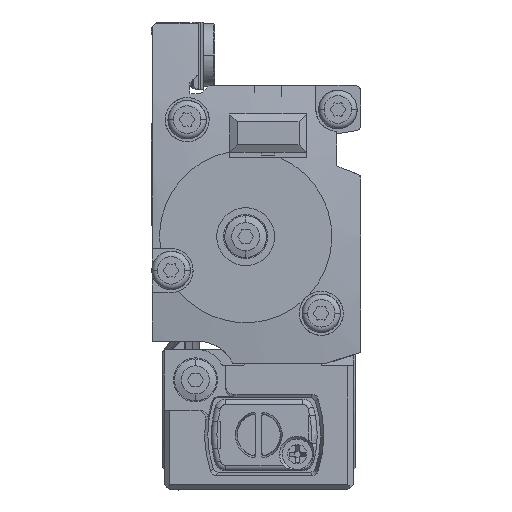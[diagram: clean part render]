
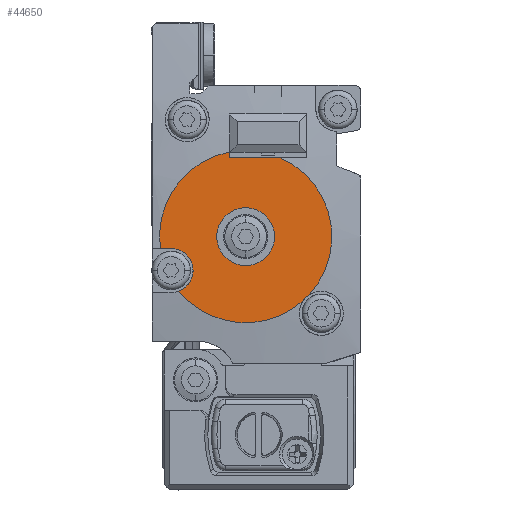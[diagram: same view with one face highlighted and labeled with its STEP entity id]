
A CAD part, left-side view. The second image highlights one B-rep face of the part: STEP entity #44650.
In plain terms, the highlighted planar face has unit normal (-1, 0, 0) as drawn and (0, 0, -1) by its records, which use the part's own axes.
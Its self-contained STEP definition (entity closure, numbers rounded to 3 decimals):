
#5440=CARTESIAN_POINT('',(-103.732,235.923,
-10.5));
#5450=VERTEX_POINT('',#5440);
#5480=CARTESIAN_POINT('',(-105.972,239.237,
-10.5));
#5490=DIRECTION('',(0.,0.,-1.));
#5500=DIRECTION('',(-1.,0.,0.));
#5510=AXIS2_PLACEMENT_3D('',#5480,#5490,#5500);
#5520=CIRCLE('',#5510,4.);
#5530=CARTESIAN_POINT('',(-102.627,237.044,
-10.5));
#5540=VERTEX_POINT('',#5530);
#5550=EDGE_CURVE('',#5540,#5450,#5520,.T.);
#14040=CARTESIAN_POINT('',(-94.188,211.959,
-10.5));
#14050=VERTEX_POINT('',#14040);
#14080=CARTESIAN_POINT('',(-98.188,211.959,
-10.5));
#14090=DIRECTION('',(0.,0.,-1.));
#14100=DIRECTION('',(-1.,0.,0.));
#14110=AXIS2_PLACEMENT_3D('',#14080,#14090,#14100);
#14120=CIRCLE('',#14110,4.);
#14130=CARTESIAN_POINT('',(-101.931,213.372,
-10.5));
#14140=VERTEX_POINT('',#14130);
#14150=EDGE_CURVE('',#14140,#14050,#14120,.T.);
#44040=CARTESIAN_POINT('',(-84.704,225.495,
-10.5));
#44050=DIRECTION('',(0.,0.,-1.));
#44060=DIRECTION('',(1.,0.,0.));
#44070=AXIS2_PLACEMENT_3D('',#44040,#44050,#44060);
#44080=PLANE('',#44070);
#44090=CARTESIAN_POINT('',(-92.05,225.495,
-10.5));
#44100=DIRECTION('',(0.,0.,-1.));
#44110=DIRECTION('',(-1.,0.,0.));
#44120=AXIS2_PLACEMENT_3D('',#44090,#44100,#44110);
#44130=CIRCLE('',#44120,5.25);
#44140=CARTESIAN_POINT('',(-97.3,225.495,
-10.5));
#44150=VERTEX_POINT('',#44140);
#44160=CARTESIAN_POINT('',(-86.8,225.495,
-10.5));
#44170=VERTEX_POINT('',#44160);
#44180=EDGE_CURVE('',#44150,#44170,#44130,.T.);
#44190=ORIENTED_EDGE('',*,*,#44180,.F.);
#44200=EDGE_CURVE('',#44170,#44150,#44130,.T.);
#44210=ORIENTED_EDGE('',*,*,#44200,.F.);
#44220=EDGE_LOOP('',(#44210,#44190));
#44230=FACE_BOUND('',#44220,.T.);
#44240=ORIENTED_EDGE('',*,*,#5550,.F.);
#44250=CARTESIAN_POINT('',(-92.051,225.509,
-10.5));
#44260=DIRECTION('',(0.,0.,-1.));
#44270=DIRECTION('',(1.,0.,0.));
#44280=AXIS2_PLACEMENT_3D('',#44250,#44260,#44270);
#44290=CIRCLE('',#44280,15.65);
#44300=EDGE_CURVE('',#14140,#5450,#44290,.T.);
#44310=ORIENTED_EDGE('',*,*,#44300,.T.);
#44320=ORIENTED_EDGE('',*,*,#14150,.F.);
#44330=CARTESIAN_POINT('',(-94.188,225.509,
-10.5));
#44340=DIRECTION('',(0.,1.,0.));
#44350=VECTOR('',#44340,1.);
#44360=LINE('',#44330,#44350);
#44370=CARTESIAN_POINT('',(-94.188,210.006,
-10.5));
#44380=VERTEX_POINT('',#44370);
#44390=EDGE_CURVE('',#44380,#14050,#44360,.T.);
#44400=ORIENTED_EDGE('',*,*,#44390,.T.);
#44410=CARTESIAN_POINT('',(-76.678,222.58,
-10.5));
#44420=VERTEX_POINT('',#44410);
#44430=EDGE_CURVE('',#44420,#44380,#44290,.T.);
#44440=ORIENTED_EDGE('',*,*,#44430,.T.);
#44450=CARTESIAN_POINT('',(-137.342,222.58,
-10.5));
#44460=DIRECTION('',(-1.,0.,0.));
#44470=VECTOR('',#44460,1.);
#44480=LINE('',#44450,#44470);
#44490=CARTESIAN_POINT('',(-77.669,222.58,
-10.5));
#44500=VERTEX_POINT('',#44490);
#44510=EDGE_CURVE('',#44420,#44500,#44480,.T.);
#44520=ORIENTED_EDGE('',*,*,#44510,.F.);
#44530=CARTESIAN_POINT('',(-77.669,225.509,
-10.5));
#44540=DIRECTION('',(0.,-1.,0.));
#44550=VECTOR('',#44540,1.);
#44560=LINE('',#44530,#44550);
#44570=CARTESIAN_POINT('',(-77.669,231.679,
-10.5));
#44580=VERTEX_POINT('',#44570);
#44590=EDGE_CURVE('',#44580,#44500,#44560,.T.);
#44600=ORIENTED_EDGE('',*,*,#44590,.T.);
#44610=EDGE_CURVE('',#5540,#44580,#44290,.T.);
#44620=ORIENTED_EDGE('',*,*,#44610,.T.);
#44630=EDGE_LOOP('',(#44620,#44600,#44520,#44440,#44400,#44320,#44310,
#44240));
#44640=FACE_OUTER_BOUND('',#44630,.T.);
#44650=ADVANCED_FACE('',(#44230,#44640),#44080,.T.);
